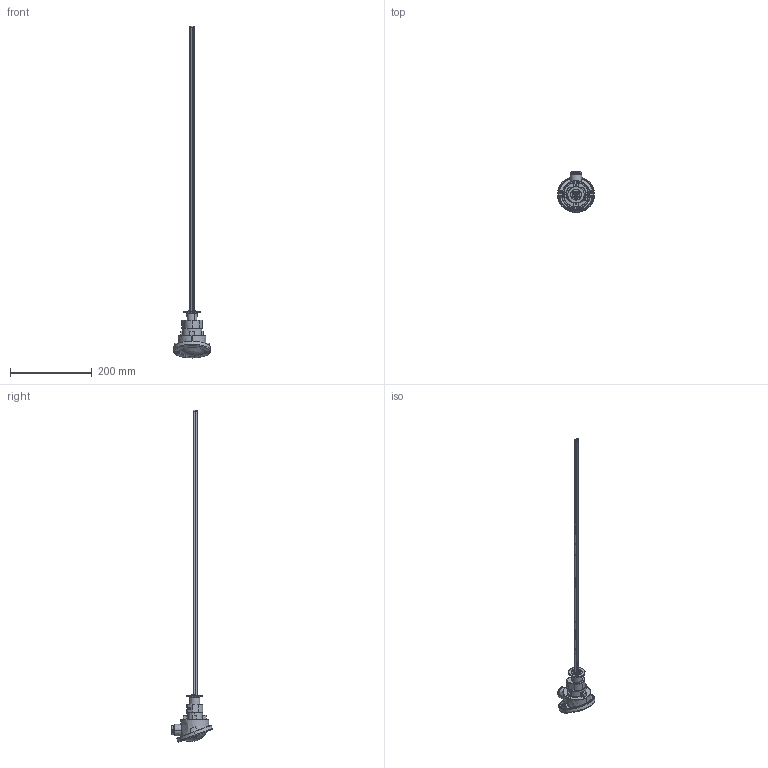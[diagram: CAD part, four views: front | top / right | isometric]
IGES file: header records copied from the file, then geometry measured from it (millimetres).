
Start section: SolidWorks IGES file using analytic representation for surfaces
Global section: file name: U:\02 - Zeichungen\8-0503-KF25\13-0503-KF25.IGS; native system: SolidWorks 2018; preprocessor: SolidWorks 2018; author: koertv0d; date: 180831.105839; units: millimetre
Bounding box: 90 x 99.45 x 811.51 mm (x, y, z)
Surface area: 174404.9 mm2 (no closed solid volume)
Topology: 0 solids, 0 shells, 972 faces, 16903 edges, 16851 vertices
Faces by surface type: revolution 549, bspline 423
